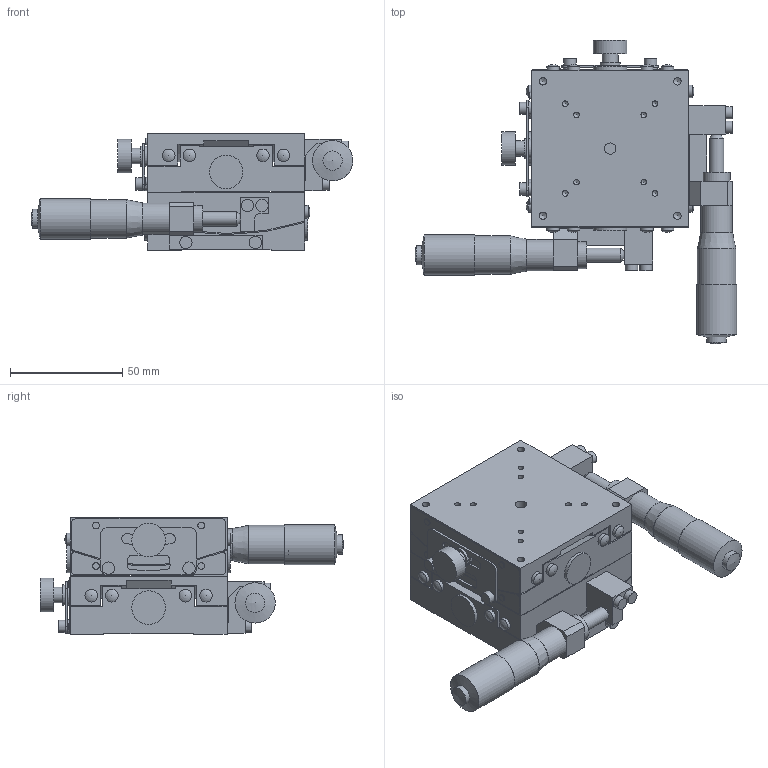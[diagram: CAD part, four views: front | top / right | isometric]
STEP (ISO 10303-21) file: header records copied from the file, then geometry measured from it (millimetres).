
FILE_DESCRIPTION( ( 'STEP AP203' ), '1' );
FILE_NAME( 'C:/Documents and Settings/09371/デスクトップ/CAD-ORG-STEP-DATA-3D簡素化依頼/3D_DATA_STEP/B59-70UR.step', '2007-02-09T09:02:08', ( ' ' ), ( ' ' ), 'XStep 1.0', ' ', ' ' );
FILE_SCHEMA( ( 'CONFIG_CONTROL_DESIGN' ) );
Length unit declared in the file: millimetre
Products named in the file (6): 1; 2; 3; 4; 5; 6
Bounding box: 143.5 x 135.3 x 52 mm (x, y, z)
Volume: 278437 mm3; surface area: 90540.2 mm2
Topology: 6 solids, 6 shells, 449 faces, 1133 edges, 743 vertices
Faces by surface type: cylinder 206, plane 191, cone 32, sphere 20
Full cylindrical faces by diameter (mm): 2.5 x32, 3 x8, 3.3 x16, 4 x2, 4.5 x8, 5 x4, 5.5 x12, 5.6 x16, 6 x4, 6.35 x4, 7 x2, 8 x8, 8.6 x2, 9 x4, 12 x2, 14 x2, 15 x6, 16.8 x2, 17.2 x2, 18 x2
Entity records: 12476 total; most frequent: CARTESIAN_POINT 2469, DIRECTION 2120, ORIENTED_EDGE 1656, AXIS2_PLACEMENT_3D 853, EDGE_CURVE 828, EDGE_LOOP 718, VERTEX_POINT 654, FACE_OUTER_BOUND 587
